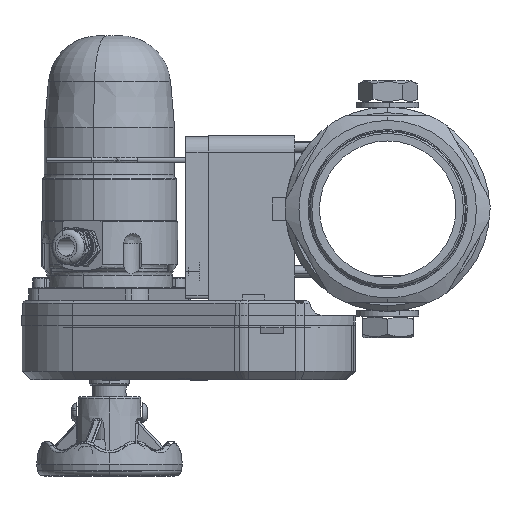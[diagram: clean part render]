
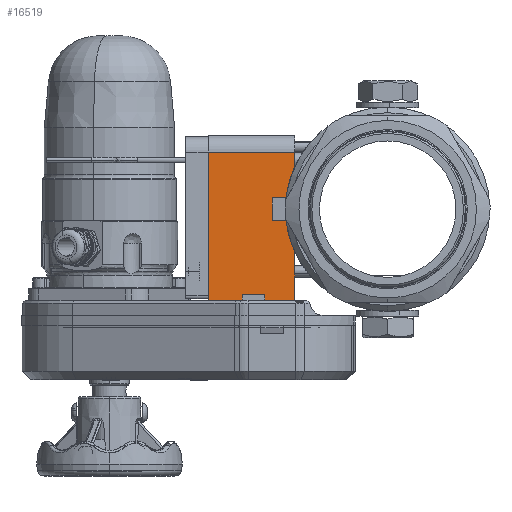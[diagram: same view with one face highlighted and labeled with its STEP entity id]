
A CAD part, front view. The second image highlights one B-rep face of the part: STEP entity #16519.
In plain terms, the highlighted planar face has unit normal (0, -1, 0).
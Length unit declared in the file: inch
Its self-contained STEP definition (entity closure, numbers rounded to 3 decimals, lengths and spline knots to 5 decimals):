
#787 = EDGE_CURVE ( 'NONE', #41873, #11217, #1038, .T. ) ;
#1038 = LINE ( 'NONE', #16497, #26912 ) ;
#1325 = CARTESIAN_POINT ( 'NONE',  ( -2.04, -4.185, 1.25 ) ) ;
#2331 = VERTEX_POINT ( 'NONE', #32715 ) ;
#2772 = ORIENTED_EDGE ( 'NONE', *, *, #19242, .T. ) ;
#2819 = EDGE_LOOP ( 'NONE', ( #4855, #5370, #7826, #31411, #28529, #7947, #12287, #40236, #2772, #4727, #31461, #15352 ) ) ;
#4080 = VECTOR ( 'NONE', #25990, 39.37008 ) ;
#4132 = CARTESIAN_POINT ( 'NONE',  ( -2.54, -4.185, -0.25 ) ) ;
#4485 = VECTOR ( 'NONE', #21001, 39.37008 ) ;
#4727 = ORIENTED_EDGE ( 'NONE', *, *, #23012, .T. ) ;
#4855 = ORIENTED_EDGE ( 'NONE', *, *, #14556, .T. ) ;
#5370 = ORIENTED_EDGE ( 'NONE', *, *, #28427, .T. ) ;
#5385 = VERTEX_POINT ( 'NONE', #32378 ) ;
#5602 = DIRECTION ( 'NONE',  ( 0., 0., -1. ) ) ;
#5900 = PLANE ( 'NONE',  #19952 ) ;
#7542 = DIRECTION ( 'NONE',  ( 1., 0., 0. ) ) ;
#7826 = ORIENTED_EDGE ( 'NONE', *, *, #29783, .F. ) ;
#7947 = ORIENTED_EDGE ( 'NONE', *, *, #26928, .T. ) ;
#7991 = CARTESIAN_POINT ( 'NONE',  ( -2.7, -4.185, -1.875 ) ) ;
#9248 = CARTESIAN_POINT ( 'NONE',  ( -3.97, -4.185, 1.25 ) ) ;
#9611 = VECTOR ( 'NONE', #33848, 39.37008 ) ;
#9949 = CARTESIAN_POINT ( 'NONE',  ( -2.7, -4.185, -2. ) ) ;
#10223 = CARTESIAN_POINT ( 'NONE',  ( -3.97, -4.185, -2. ) ) ;
#10417 = LINE ( 'NONE', #13859, #22205 ) ;
#11021 = CARTESIAN_POINT ( 'NONE',  ( -2.04, -4.185, -0.25 ) ) ;
#11178 = DIRECTION ( 'NONE',  ( 0., 0., -1. ) ) ;
#11217 = VERTEX_POINT ( 'NONE', #11021 ) ;
#11528 = LINE ( 'NONE', #10223, #4485 ) ;
#11622 = DIRECTION ( 'NONE',  ( 0., 0., -1. ) ) ;
#11632 = CARTESIAN_POINT ( 'NONE',  ( -3.97, -4.185, -2. ) ) ;
#12162 = FACE_OUTER_BOUND ( 'NONE', #2819, .T. ) ;
#12287 = ORIENTED_EDGE ( 'NONE', *, *, #15409, .F. ) ;
#12576 = VERTEX_POINT ( 'NONE', #36284 ) ;
#12991 = DIRECTION ( 'NONE',  ( 0., -1., 0. ) ) ;
#13060 = CARTESIAN_POINT ( 'NONE',  ( -2.54, -4.185, 0.25 ) ) ;
#13197 = DIRECTION ( 'NONE',  ( 1., 0., 0. ) ) ;
#13244 = EDGE_CURVE ( 'NONE', #21063, #33366, #18760, .T. ) ;
#13859 = CARTESIAN_POINT ( 'NONE',  ( -2.7, -4.185, -1.875 ) ) ;
#13882 = LINE ( 'NONE', #37686, #22461 ) ;
#14556 = EDGE_CURVE ( 'NONE', #20844, #33564, #25102, .T. ) ;
#15234 = CARTESIAN_POINT ( 'NONE',  ( -3.94, -4.185, 1.25 ) ) ;
#15352 = ORIENTED_EDGE ( 'NONE', *, *, #36399, .F. ) ;
#15409 = EDGE_CURVE ( 'NONE', #33366, #5385, #13882, .T. ) ;
#16497 = CARTESIAN_POINT ( 'NONE',  ( -2.54, -4.185, -0.25 ) ) ;
#16519 = ADVANCED_FACE ( 'NONE', ( #12162 ), #5900, .T. ) ;
#17881 = EDGE_CURVE ( 'NONE', #38282, #12576, #25994, .T. ) ;
#18760 = LINE ( 'NONE', #9248, #9611 ) ;
#19221 = LINE ( 'NONE', #42516, #4080 ) ;
#19242 = EDGE_CURVE ( 'NONE', #21063, #2331, #33724, .T. ) ;
#19284 = CARTESIAN_POINT ( 'NONE',  ( -3.97, -4.185, 1.25 ) ) ;
#19402 = CARTESIAN_POINT ( 'NONE',  ( -2.04, -4.185, -2. ) ) ;
#19933 = VERTEX_POINT ( 'NONE', #35709 ) ;
#19952 = AXIS2_PLACEMENT_3D ( 'NONE', #19284, #12991, #5602 ) ;
#20319 = VECTOR ( 'NONE', #11622, 39.37008 ) ;
#20837 = LINE ( 'NONE', #32681, #41137 ) ;
#20844 = VERTEX_POINT ( 'NONE', #23753 ) ;
#20914 = DIRECTION ( 'NONE',  ( 0., 0., -1. ) ) ;
#21001 = DIRECTION ( 'NONE',  ( 1., 0., 0. ) ) ;
#21063 = VERTEX_POINT ( 'NONE', #21787 ) ;
#21787 = CARTESIAN_POINT ( 'NONE',  ( -3.94, -4.185, 1.25 ) ) ;
#22205 = VECTOR ( 'NONE', #37644, 39.37008 ) ;
#22254 = DIRECTION ( 'NONE',  ( 0., 0., -1. ) ) ;
#22461 = VECTOR ( 'NONE', #20914, 39.37008 ) ;
#23012 = EDGE_CURVE ( 'NONE', #2331, #12576, #11528, .T. ) ;
#23374 = CARTESIAN_POINT ( 'NONE',  ( -3.2, -4.185, -1.875 ) ) ;
#23753 = CARTESIAN_POINT ( 'NONE',  ( -2.7, -4.185, -1.875 ) ) ;
#24511 = LINE ( 'NONE', #13060, #32515 ) ;
#25102 = LINE ( 'NONE', #7991, #20319 ) ;
#25990 = DIRECTION ( 'NONE',  ( 0., 0., -1. ) ) ;
#25994 = LINE ( 'NONE', #28208, #33531 ) ;
#26743 = VECTOR ( 'NONE', #22254, 39.37008 ) ;
#26912 = VECTOR ( 'NONE', #13197, 39.37008 ) ;
#26928 = EDGE_CURVE ( 'NONE', #19933, #5385, #20837, .T. ) ;
#27831 = LINE ( 'NONE', #11632, #36948 ) ;
#28208 = CARTESIAN_POINT ( 'NONE',  ( -3.2, -4.185, -1.875 ) ) ;
#28427 = EDGE_CURVE ( 'NONE', #33564, #30551, #27831, .T. ) ;
#28529 = ORIENTED_EDGE ( 'NONE', *, *, #30579, .F. ) ;
#29783 = EDGE_CURVE ( 'NONE', #11217, #30551, #19221, .T. ) ;
#30551 = VERTEX_POINT ( 'NONE', #19402 ) ;
#30579 = EDGE_CURVE ( 'NONE', #19933, #41873, #24511, .T. ) ;
#31411 = ORIENTED_EDGE ( 'NONE', *, *, #787, .F. ) ;
#31461 = ORIENTED_EDGE ( 'NONE', *, *, #17881, .F. ) ;
#32378 = CARTESIAN_POINT ( 'NONE',  ( -2.04, -4.185, 0.25 ) ) ;
#32515 = VECTOR ( 'NONE', #33386, 39.37008 ) ;
#32681 = CARTESIAN_POINT ( 'NONE',  ( -2.54, -4.185, 0.25 ) ) ;
#32715 = CARTESIAN_POINT ( 'NONE',  ( -3.94, -4.185, -2. ) ) ;
#33366 = VERTEX_POINT ( 'NONE', #1325 ) ;
#33386 = DIRECTION ( 'NONE',  ( 0., 0., -1. ) ) ;
#33531 = VECTOR ( 'NONE', #11178, 39.37008 ) ;
#33564 = VERTEX_POINT ( 'NONE', #9949 ) ;
#33724 = LINE ( 'NONE', #15234, #26743 ) ;
#33848 = DIRECTION ( 'NONE',  ( 1., 0., 0. ) ) ;
#35709 = CARTESIAN_POINT ( 'NONE',  ( -2.54, -4.185, 0.25 ) ) ;
#36115 = DIRECTION ( 'NONE',  ( 1., 0., 0. ) ) ;
#36284 = CARTESIAN_POINT ( 'NONE',  ( -3.2, -4.185, -2. ) ) ;
#36399 = EDGE_CURVE ( 'NONE', #20844, #38282, #10417, .T. ) ;
#36948 = VECTOR ( 'NONE', #7542, 39.37008 ) ;
#37644 = DIRECTION ( 'NONE',  ( -1., 0., 0. ) ) ;
#37686 = CARTESIAN_POINT ( 'NONE',  ( -2.04, -4.185, 1.25 ) ) ;
#38282 = VERTEX_POINT ( 'NONE', #23374 ) ;
#40236 = ORIENTED_EDGE ( 'NONE', *, *, #13244, .F. ) ;
#41137 = VECTOR ( 'NONE', #36115, 39.37008 ) ;
#41873 = VERTEX_POINT ( 'NONE', #4132 ) ;
#42516 = CARTESIAN_POINT ( 'NONE',  ( -2.04, -4.185, 1.25 ) ) ;
